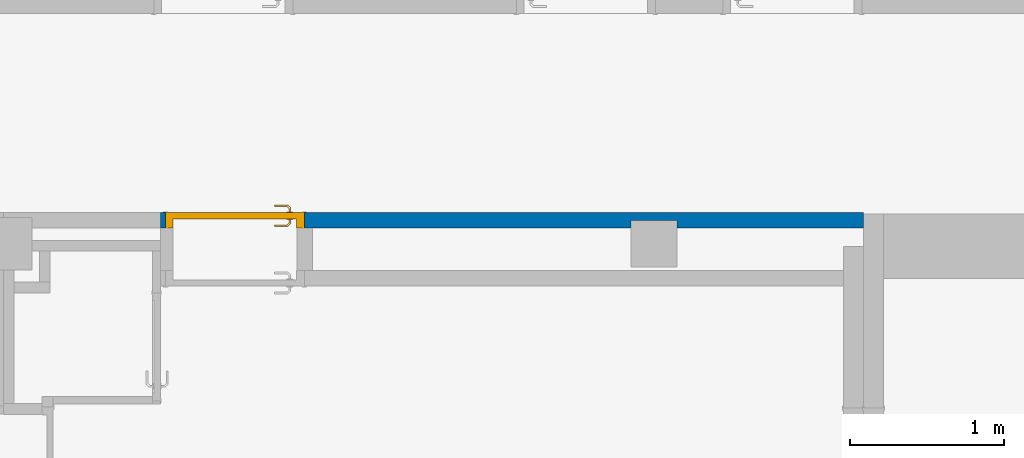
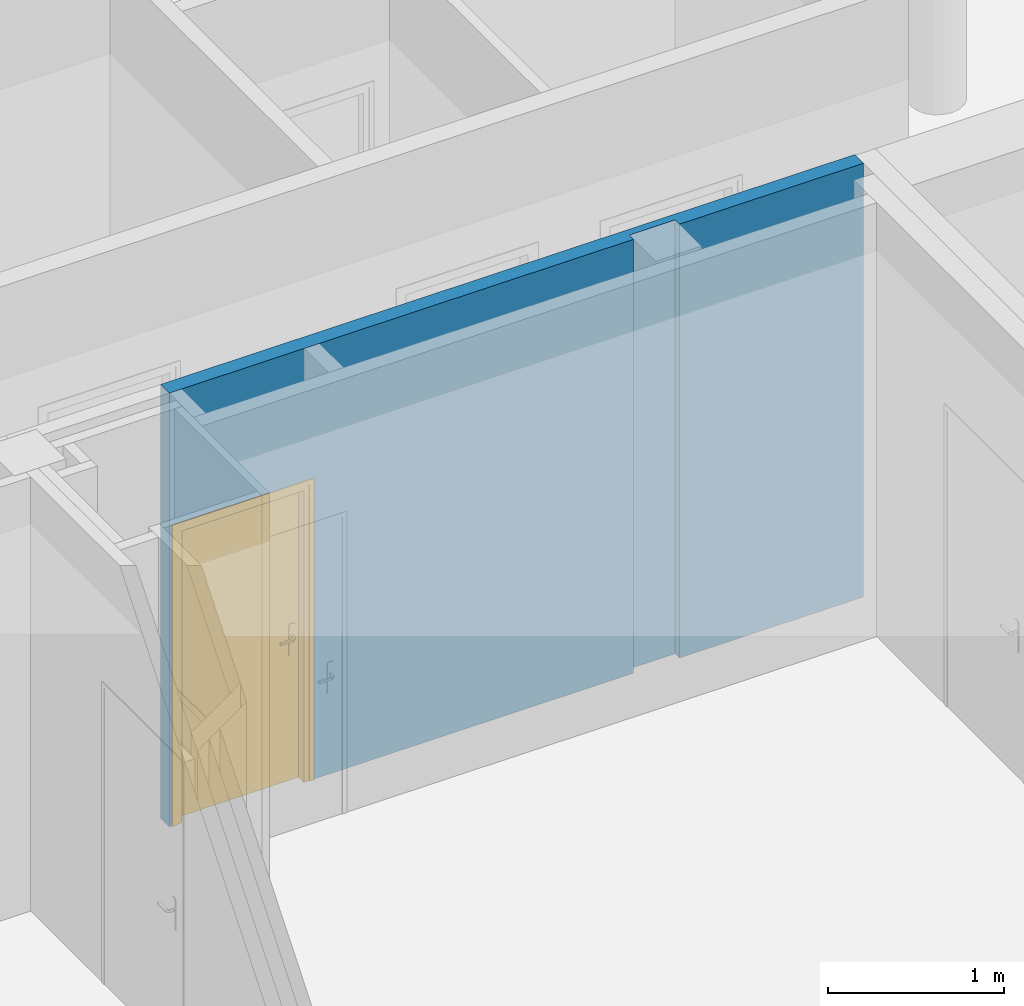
# One storey, part 67 of 97: 1 door, 1 wall, 1 opening.
"""IFC4 building model written with IfcOpenShell, lengths in metres."""

from ifc_helpers import new_model, entity, si_unit, converted_unit, derived_unit, direction, frame, origin, place, context, subcontext, project, spatial, indexed_curve, outline, extrude, polygons, source, transform, mapped, material, material_list, layer, layer_set, constituent, constituent_set, type_object, type_shapes, element, fill, save


model = new_model("IFC4")

# Units and contexts
model_context = context("Model", 3, precision=1e-05, world=origin(), true_north=direction((6.12303176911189e-17, 1.0)))
body_context = subcontext(model_context, "Body", "Model", "MODEL_VIEW")
ifc_project = project(units=[si_unit("LENGTHUNIT", "METRE"), si_unit("AREAUNIT", "SQUARE_METRE"), si_unit("VOLUMEUNIT", "CUBIC_METRE"), converted_unit("PLANEANGLEUNIT", "DEGREE", entity("IfcRatioMeasure", 0.0174532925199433), si_unit("PLANEANGLEUNIT", "RADIAN"), dimensions=[0, 0, 0, 0, 0, 0, 0]), si_unit("MASSUNIT", "GRAM", prefix="KILO"), derived_unit("MASSDENSITYUNIT", [(si_unit("MASSUNIT", "GRAM", prefix="KILO"), 1), (si_unit("LENGTHUNIT", "METRE"), -3)]), derived_unit("MOMENTOFINERTIAUNIT", [(si_unit("LENGTHUNIT", "METRE"), 4)]), si_unit("TIMEUNIT", "SECOND"), si_unit("FREQUENCYUNIT", "HERTZ"), si_unit("THERMODYNAMICTEMPERATUREUNIT", "DEGREE_CELSIUS"), derived_unit("THERMALTRANSMITTANCEUNIT", [(si_unit("MASSUNIT", "GRAM", prefix="KILO"), 1), (si_unit("THERMODYNAMICTEMPERATUREUNIT", "KELVIN"), -1), (si_unit("TIMEUNIT", "SECOND"), -3)]), derived_unit("VOLUMETRICFLOWRATEUNIT", [(si_unit("LENGTHUNIT", "METRE"), 3), (si_unit("TIMEUNIT", "SECOND"), -1)]), si_unit("ELECTRICCURRENTUNIT", "AMPERE"), si_unit("ELECTRICVOLTAGEUNIT", "VOLT"), si_unit("POWERUNIT", "WATT"), si_unit("FORCEUNIT", "NEWTON", prefix="KILO"), si_unit("ILLUMINANCEUNIT", "LUX"), si_unit("LUMINOUSFLUXUNIT", "LUMEN"), si_unit("LUMINOUSINTENSITYUNIT", "CANDELA"), derived_unit("USERDEFINED", [(si_unit("MASSUNIT", "GRAM", prefix="KILO"), -1), (si_unit("LENGTHUNIT", "METRE"), -2), (si_unit("TIMEUNIT", "SECOND"), 3), (si_unit("LUMINOUSFLUXUNIT", "LUMEN"), 1)]), derived_unit("LINEARVELOCITYUNIT", [(si_unit("LENGTHUNIT", "METRE"), 1), (si_unit("TIMEUNIT", "SECOND"), -1)]), si_unit("PRESSUREUNIT", "PASCAL"), derived_unit("USERDEFINED", [(si_unit("LENGTHUNIT", "METRE"), -2), (si_unit("MASSUNIT", "GRAM", prefix="KILO"), 1), (si_unit("TIMEUNIT", "SECOND"), -2)]), derived_unit("LINEARFORCEUNIT", [(si_unit("MASSUNIT", "GRAM", prefix="KILO"), 1), (si_unit("LENGTHUNIT", "METRE"), 1), (si_unit("TIMEUNIT", "SECOND"), -2), (si_unit("LENGTHUNIT", "METRE"), -1)]), derived_unit("PLANARFORCEUNIT", [(si_unit("MASSUNIT", "GRAM", prefix="KILO"), 1), (si_unit("LENGTHUNIT", "METRE"), 1), (si_unit("TIMEUNIT", "SECOND"), -2), (si_unit("LENGTHUNIT", "METRE"), -2)])], contexts=[model_context])

# Site, building, storey
site_placement = place(None, origin())
site = spatial("IfcSite", under=ifc_project, at=site_placement, Name="Default", CompositionType="ELEMENT")
building_placement = place(site_placement, origin())
building = spatial("IfcBuilding", under=site, at=building_placement, Name="HOTEL CONSULAIRE BOULOGNE SUR MER", CompositionType="ELEMENT")
storey_placement = place(building_placement, frame((0.0, 0.0, 3.62152697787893)))
storey = spatial("IfcBuildingStorey", under=building, at=storey_placement, Name="Niveau 1", CompositionType="ELEMENT", Elevation=3.62152697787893)

# Wall, opening, door
ifc_material_1 = material(Name="Mur par défaut", Category="Divers")
ifc_layer = layer(ifc_material_1, 0.1, Name="Mur par défaut", Category="Divers")
ifc_layer_set = layer_set([ifc_layer], Name="Mur de base:Générique - Int. 100 mm")
wall_type = type_object("IfcWallType", Name="Mur de base:Générique - Int. 100 mm", PredefinedType="NOTDEFINED", material=ifc_layer_set)
wall_placement = place(storey_placement, frame((4.3285800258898, -23.864691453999, 0.0), z_axis=(0.0, 0.0, 1.0), x_axis=(-1.0, 0.0, 0.0)))
wall = element("IfcWall", 1, at=wall_placement, inside=storey, type_object=wall_type, material=ifc_layer_set, Name="Mur de base:Générique - Int. 100 mm", ObjectType="Mur de base:Générique - Int. 100 mm", PredefinedType="NOTDEFINED", context=body_context, shape_type="Tessellation", body=[
    polygons([(4.55401369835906, -0.0499999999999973, 0.0), (4.522, -0.0499999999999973, 0.0), (4.522, 0.0500000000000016, 0.0), (4.55401369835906, 0.0499999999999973, 0.0), (-9.21861987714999e-17, 0.0500000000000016, 0.0), (-9.21861987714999e-17, 0.0500000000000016, 3.01021454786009), (1.20740325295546, 0.0500000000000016, 3.01021454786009), (1.20740325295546, 0.0500000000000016, 0.0), (4.55401369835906, -0.0500000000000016, 3.01021454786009), (2.47802385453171e-16, -0.0499999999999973, 3.01021454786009), (2.47802385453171e-16, -0.0499999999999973, 0.0), (3.622, -0.0500000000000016, 0.0), (3.622, -0.0500000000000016, 2.075), (4.522, -0.0500000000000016, 2.075), (4.522, 0.0499999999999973, 2.075), (3.622, 0.0499999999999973, 2.075), (3.622, 0.0499999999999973, 0.0), (3.57, 0.0499999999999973, 0.0), (1.50740325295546, 0.0500000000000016, 0.0), (1.50740325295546, 0.0500000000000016, 3.01021454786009), (3.57, 0.0499999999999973, 3.01021454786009), (3.67, 0.0499999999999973, 3.01021454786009), (4.47401369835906, 0.0499999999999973, 3.01021454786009), (4.55401369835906, 0.0499999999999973, 3.01021454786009), (1.50740325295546, 0.0012183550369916, 3.01021454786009), (1.20740325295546, 0.0012183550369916, 3.01021454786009), (2.20366383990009e-16, -0.0419303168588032, 3.01021454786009), (2.20366383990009e-16, -0.0419303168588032, 0.0), (1.20740325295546, 0.0012183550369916, 0.0), (1.50740325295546, 0.0012183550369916, 0.0)], [[[2, 3, 4, 1]], [[15, 14, 13, 16]], [[18, 17, 12, 11, 28, 5, 8, 29, 30, 19]], [[7, 8, 5, 6]], [[4, 3, 15, 16, 17, 18, 19, 20, 21, 22, 23, 24]], [[29, 26, 25, 30]], [[11, 12, 13, 14, 2, 1, 9, 10]], [[25, 26, 7, 6, 27, 10, 9, 24, 23, 22, 21, 20]], [[28, 11, 10, 27, 6, 5]], [[15, 3, 2, 14]], [[30, 25, 20, 19]], [[16, 13, 12, 17]], [[9, 1, 4, 24]], [[8, 7, 26, 29]]], closed=True),
])
opening_placement = place(wall_placement, frame((4.522, 0.0500000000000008, 0.0)))
opening = element("IfcOpeningElement", 2, at=opening_placement, cuts=wall, Name="Int. Simple:PP (0.83m x 2.04m):1", ObjectType="Opening", PredefinedType="OPENING", context=body_context, shape_type="SweptSolid", body=[
    extrude(outline(indexed_curve([(0.0, 0.0), (2.075, 0.0), (2.075, 0.9), (0.0, 0.9), (0.0, 0.0)], self_intersect=False)), frame((0.0, 0.0, 0.0), z_axis=(0.0, -1.0, 0.0), x_axis=(0.0, 0.0, 1.0)), (0.0, 0.0, 1.0), 0.1),
])
ifc_material_2 = material(Name="Finition Peinture - Blanc satiné", Category="Peinture")
ifc_constituent_1 = constituent(ifc_material_2, Name="Finition Peinture - Blanc satiné", Category="Matériaux")
ifc_material_3 = material(Name="Bois - Panneau de porte", Category="Bois")
ifc_constituent_2 = constituent(ifc_material_3, Name="Bois - Panneau de porte", Category="Matériaux")
ifc_material_4 = material(Name="Bois - Cadre de porte", Category="Bois")
ifc_constituent_3 = constituent(ifc_material_4, Name="Bois - Cadre de porte", Category="Matériaux")
ifc_constituent_set = constituent_set(constituents=[ifc_constituent_1, ifc_constituent_2, ifc_constituent_3], Name="MaterialConstituentSet")
ifc_material_list = material_list([ifc_material_3, ifc_material_4, ifc_material_2, ifc_material_4])
door_type = type_object("IfcDoorType", Name="Int. Simple:PP (0.83m x 2.04m)", OperationType="NOTDEFINED", PredefinedType="DOOR", material=ifc_material_list)
shared_shape = source(origin(), body_context, "Body", "Tessellation", [
    polygons([(0.0750000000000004, -0.00500000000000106, 0.870000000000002), (0.0846472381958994, -0.00500000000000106, 0.866003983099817), (0.0950000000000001, -0.00500000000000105, 0.86464101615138), (0.105352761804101, -0.00500000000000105, 0.866003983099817), (0.115, -0.00500000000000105, 0.870000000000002), (0.114999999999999, -0.00500000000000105, 1.08), (0.1053527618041, -0.00500000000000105, 1.08399601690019), (0.094999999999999, -0.00500000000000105, 1.08535898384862), (0.0846472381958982, -0.00500000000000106, 1.08399601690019), (0.0749999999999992, -0.00500000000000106, 1.08), (0.0749999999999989, -1.06594733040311e-15, 0.870000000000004), (0.0749999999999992, -1.06594733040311e-15, 1.08), (0.0846472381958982, -1.06594733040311e-15, 1.08399601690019), (0.094999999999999, -1.05748743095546e-15, 1.08535898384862), (0.1053527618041, -1.05748743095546e-15, 1.08399601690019), (0.114999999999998, -1.04902753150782e-15, 1.08), (0.115, -1.04902753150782e-15, 0.870000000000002), (0.105352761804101, -1.05748743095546e-15, 0.866003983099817), (0.0950000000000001, -1.05748743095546e-15, 0.86464101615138), (0.0846472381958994, -1.06594733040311e-15, 0.866003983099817)], [[[4, 5, 6, 7, 8, 9, 10, 1, 2, 3]], [[15, 16, 17, 18, 19, 20, 11, 12, 13, 14]], [[11, 20, 2, 1]], [[2, 20, 19, 3]], [[19, 18, 4, 3]], [[18, 17, 5, 4]], [[6, 5, 17, 16]], [[16, 15, 7, 6]], [[7, 15, 14, 8]], [[14, 13, 9, 8]], [[13, 12, 10, 9]], [[1, 10, 12, 11]]], closed=True),
    polygons([(0.114999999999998, 0.0399999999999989, 1.08), (0.105352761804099, 0.0399999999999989, 1.08399601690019), (0.0949999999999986, 0.0399999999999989, 1.08535898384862), (0.084647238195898, 0.0399999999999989, 1.08399601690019), (0.0749999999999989, 0.0399999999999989, 1.08), (0.0750000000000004, 0.0399999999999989, 0.870000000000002), (0.0846472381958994, 0.0399999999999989, 0.866003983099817), (0.0950000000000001, 0.0399999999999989, 0.86464101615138), (0.105352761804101, 0.0399999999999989, 0.866003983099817), (0.115, 0.0399999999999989, 0.870000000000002), (0.114999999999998, 0.0449999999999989, 1.08), (0.115, 0.0449999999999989, 0.870000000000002), (0.105352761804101, 0.0449999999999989, 0.866003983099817), (0.0950000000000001, 0.0449999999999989, 0.86464101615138), (0.0846472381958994, 0.0449999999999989, 0.866003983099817), (0.0749999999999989, 0.0449999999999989, 0.870000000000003), (0.0749999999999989, 0.0449999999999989, 1.08), (0.084647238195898, 0.0449999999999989, 1.08399601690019), (0.0949999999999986, 0.0449999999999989, 1.08535898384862), (0.105352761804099, 0.0449999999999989, 1.08399601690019)], [[[9, 10, 1, 2, 3, 4, 5, 6, 7, 8]], [[20, 11, 12, 13, 14, 15, 16, 17, 18, 19]], [[11, 20, 2, 1]], [[2, 20, 19, 3]], [[19, 18, 4, 3]], [[18, 17, 5, 4]], [[6, 5, 17, 16]], [[16, 15, 7, 6]], [[7, 15, 14, 8]], [[14, 13, 9, 8]], [[13, 12, 10, 9]], [[1, 10, 12, 11]]], closed=True),
    polygons([(0.0889999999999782, -0.00500000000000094, 1.007), (0.0929747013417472, -0.00500000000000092, 1.00778044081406), (0.0970252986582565, -0.0050000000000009, 1.00778044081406), (0.101000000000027, -0.00500000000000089, 1.00699999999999), (0.101000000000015, -0.00500000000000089, 0.993000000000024), (0.0970252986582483, -0.0050000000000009, 0.992219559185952), (0.0929747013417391, -0.00500000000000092, 0.99221955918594), (0.0889999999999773, -0.00500000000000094, 0.992999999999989), (0.0889999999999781, -0.0326509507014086, 1.007), (0.092974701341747, -0.0310045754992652, 1.00778044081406), (0.0970252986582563, -0.0293267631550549, 1.00778044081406), (0.101000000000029, -0.0276803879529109, 1.007), (0.101000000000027, -0.0276803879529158, 0.993000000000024), (0.0970252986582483, -0.0293267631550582, 0.992219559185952), (0.0929747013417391, -0.0310045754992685, 0.99221955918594), (0.0889999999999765, -0.0326509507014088, 0.992999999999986), (0.107377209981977, -0.0510281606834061, 1.007), (0.10902358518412, -0.0470534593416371, 1.00778044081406), (0.110701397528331, -0.0430028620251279, 1.00778044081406), (0.112347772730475, -0.0390281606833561, 1.007), (0.112347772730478, -0.0390281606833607, 0.993000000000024), (0.110701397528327, -0.0430028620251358, 0.992219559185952), (0.109023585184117, -0.0470534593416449, 0.99221955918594), (0.107377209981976, -0.0510281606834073, 0.992999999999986), (0.195018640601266, -0.0510281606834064, 1.00699999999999), (0.195018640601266, -0.051028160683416, 0.992999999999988), (0.195018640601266, -0.0470534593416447, 0.99221955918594), (0.195018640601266, -0.0430028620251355, 0.992219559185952), (0.195018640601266, -0.0390281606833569, 0.993000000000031), (0.195018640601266, -0.0390281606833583, 1.007), (0.195018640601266, -0.0430028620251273, 1.00778044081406), (0.195018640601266, -0.0470534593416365, 1.00778044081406), (0.147307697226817, -0.0510281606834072, 1.007), (0.152860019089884, -0.045028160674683, 1.0078786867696), (0.15368320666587, -0.039028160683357, 1.007), (0.147307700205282, -0.0510281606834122, 0.992999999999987), (0.152860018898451, -0.0450281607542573, 0.992121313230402), (0.153683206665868, -0.0390281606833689, 0.993000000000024)], [[[2, 3, 4, 5, 6, 7, 8, 1]], [[21, 20, 35, 30, 29, 38]], [[9, 10, 2, 1]], [[10, 18, 19, 11, 3, 2]], [[11, 12, 4, 3]], [[5, 4, 12, 13]], [[26, 27, 28, 29, 30, 31, 32, 25]], [[13, 14, 6, 5]], [[14, 22, 23, 15, 7, 6]], [[15, 16, 8, 7]], [[1, 8, 16, 9]], [[17, 18, 10, 9]], [[19, 20, 12, 11]], [[13, 12, 20, 21]], [[21, 22, 14, 13]], [[23, 24, 16, 15]], [[9, 16, 24, 17]], [[33, 32, 34]], [[25, 32, 33]], [[18, 17, 33]], [[34, 35, 19]], [[20, 19, 35]], [[35, 31, 30]], [[32, 31, 34]], [[31, 35, 34]], [[18, 33, 34]], [[18, 34, 19]], [[38, 28, 37]], [[36, 37, 27]], [[21, 38, 22]], [[38, 29, 28]], [[26, 36, 27]], [[24, 23, 36]], [[36, 23, 37]], [[23, 22, 37]], [[22, 38, 37]], [[27, 37, 28]], [[17, 24, 36, 26, 25, 33]]], closed=True),
    polygons([(0.10100000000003, 0.0449999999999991, 0.993000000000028), (0.101000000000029, 0.0449999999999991, 1.007), (0.0970252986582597, 0.0449999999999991, 1.00778044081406), (0.0929747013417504, 0.0449999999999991, 1.00778044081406), (0.0889999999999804, 0.044999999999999, 1.007), (0.0889999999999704, 0.044999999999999, 0.992999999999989), (0.0929747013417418, 0.0449999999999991, 0.99221955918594), (0.0970252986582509, 0.0449999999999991, 0.992219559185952), (0.10100000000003, 0.067485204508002, 0.993000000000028), (0.10100000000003, 0.0674852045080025, 1.007), (0.0970252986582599, 0.0691315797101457, 1.00778044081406), (0.0929747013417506, 0.070809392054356, 1.00778044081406), (0.0889999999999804, 0.0724557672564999, 1.007), (0.0889999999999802, 0.072455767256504, 0.992999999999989), (0.0929747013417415, 0.0708093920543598, 0.99221955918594), (0.0970252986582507, 0.0691315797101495, 0.992219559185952), (0.112485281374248, 0.0789704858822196, 0.993000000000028), (0.112485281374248, 0.0789704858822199, 1.007), (0.110838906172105, 0.0829451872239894, 1.00778044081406), (0.109161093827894, 0.0869957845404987, 1.00778044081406), (0.107514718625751, 0.0909704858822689, 1.007), (0.107514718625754, 0.090970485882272, 0.992999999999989), (0.109161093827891, 0.0869957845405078, 0.99221955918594), (0.110838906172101, 0.0829451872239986, 0.992219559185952), (0.195045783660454, 0.0789704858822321, 0.993000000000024), (0.195045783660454, 0.0829451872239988, 0.992219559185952), (0.195045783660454, 0.086995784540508, 0.99221955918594), (0.195045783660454, 0.0909704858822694, 0.992999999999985), (0.195045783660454, 0.0909704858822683, 1.007), (0.195045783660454, 0.0869957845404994, 1.00778044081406), (0.195045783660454, 0.0829451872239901, 1.00778044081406), (0.195045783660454, 0.0789704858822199, 1.007), (0.147445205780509, 0.0909704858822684, 1.007), (0.152942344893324, 0.0849704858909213, 1.0078786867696), (0.153765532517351, 0.0789704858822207, 1.007), (0.147445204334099, 0.0909704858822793, 0.992999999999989), (0.152942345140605, 0.0849704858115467, 0.992121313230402), (0.153765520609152, 0.0789704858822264, 0.993000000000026)], [[[4, 5, 6, 7, 8, 1, 2, 3]], [[18, 17, 38, 25, 32, 35]], [[2, 1, 9, 10]], [[25, 26, 27, 28, 29, 30, 31, 32]], [[10, 11, 3, 2]], [[11, 19, 20, 12, 4, 3]], [[12, 13, 5, 4]], [[6, 5, 13, 14]], [[14, 15, 7, 6]], [[15, 23, 24, 16, 8, 7]], [[16, 9, 1, 8]], [[10, 9, 17, 18]], [[18, 19, 11, 10]], [[20, 21, 13, 12]], [[14, 13, 21, 22]], [[22, 23, 15, 14]], [[24, 17, 9, 16]], [[35, 31, 34]], [[33, 34, 30]], [[18, 35, 19]], [[35, 32, 31]], [[29, 33, 30]], [[21, 20, 33]], [[33, 20, 34]], [[20, 19, 34]], [[19, 35, 34]], [[30, 34, 31]], [[21, 33, 29, 28, 36, 22]], [[36, 27, 37]], [[28, 27, 36]], [[23, 22, 36]], [[37, 38, 24]], [[17, 24, 38]], [[38, 26, 25]], [[27, 26, 37]], [[26, 38, 37]], [[23, 36, 37]], [[23, 37, 24]]], closed=True),
    polygons([(0.034999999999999, 0.04, 2.04), (0.865, 0.04, 2.04), (0.864999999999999, 0.04, 0.0), (0.034999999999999, 0.04, 0.0), (0.034999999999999, 3.38395977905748e-17, 2.04), (0.034999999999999, 3.38395977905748e-17, 0.0), (0.864999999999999, 3.38395977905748e-17, 0.0), (0.865, 3.38395977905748e-17, 2.04)], [[[4, 1, 2, 3]], [[7, 8, 5, 6]], [[2, 1, 5, 8]], [[3, 2, 8, 7]], [[4, 3, 7, 6]], [[1, 4, 6, 5]]], closed=True),
    polygons([(-1.54308565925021e-14, 0.0, 0.0), (-1.54308565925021e-14, 0.100000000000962, 0.0), (0.0499999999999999, 0.100000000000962, 0.0), (0.0499999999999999, 0.040000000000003, 0.0), (0.0349999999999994, 0.040000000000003, 0.0), (0.0349999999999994, 0.0, 0.0), (-1.53631773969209e-14, 0.0, 2.07500000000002), (-1.53631773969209e-14, 0.100000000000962, 2.07500000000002), (0.900000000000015, 0.100000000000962, 2.07500000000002), (0.900000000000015, 0.100000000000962, 9.23443718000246e-25), (0.85, 0.100000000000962, 6.02669015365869e-24), (0.85, 0.100000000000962, 2.025), (0.05, 0.100000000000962, 2.025), (0.05, 0.040000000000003, 2.025), (0.85, 0.040000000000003, 2.025), (0.85, 0.040000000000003, 1.99209609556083e-25), (0.865, 0.040000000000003, 1.51399294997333e-24), (0.865000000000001, 0.040000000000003, 2.04), (0.0349999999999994, 0.040000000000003, 2.04), (0.0349999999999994, 0.0, 2.04), (0.865, 0.0, 2.04), (0.865, 0.0, 3.40121094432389e-24), (0.900000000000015, 0.0, 1.81925185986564e-24), (0.900000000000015, 0.0, 2.07500000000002)], [[[5, 6, 1, 2, 3, 4]], [[11, 10, 23, 22, 17, 16]], [[14, 13, 12, 15]], [[20, 19, 18, 21]], [[2, 1, 7, 8]], [[15, 12, 11, 16]], [[21, 18, 17, 22]], [[3, 2, 8, 9, 10, 11, 12, 13]], [[4, 3, 13, 14]], [[6, 5, 19, 20]], [[9, 24, 23, 10]], [[16, 17, 18, 19, 5, 4, 14, 15]], [[22, 23, 24, 7, 1, 6, 20, 21]], [[8, 7, 24, 9]]], closed=True),
    polygons([(0.0149999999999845, 0.100000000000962, 1.35358391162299e-16), (-0.0150000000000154, 0.100000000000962, 1.35358391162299e-16), (-0.0150000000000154, 0.105000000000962, 1.35358391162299e-16), (0.0149999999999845, 0.105000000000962, 1.35358391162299e-16), (0.0149999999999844, 0.100000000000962, 2.06000000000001), (0.884999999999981, 0.100000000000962, 2.06000000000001), (0.88499999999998, 0.100000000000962, 5.09144897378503e-24), (0.91499999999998, 0.100000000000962, -5.44393448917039e-24), (0.91499999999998, 0.100000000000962, 2.09000000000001), (-0.0150000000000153, 0.100000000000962, 2.09000000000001), (-0.0150000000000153, 0.105000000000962, 2.09000000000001), (0.91499999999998, 0.105000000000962, 2.09000000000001), (0.91499999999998, 0.105000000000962, 5.03766794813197e-24), (0.88499999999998, 0.105000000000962, -1.89153776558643e-24), (0.88499999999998, 0.105000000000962, 2.06000000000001), (0.0149999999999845, 0.105000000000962, 2.06000000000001)], [[[1, 2, 3, 4]], [[14, 13, 8, 7]], [[5, 16, 15, 6]], [[7, 8, 9, 10, 2, 1, 5, 6]], [[3, 2, 10, 11]], [[6, 15, 14, 7]], [[4, 3, 11, 12, 13, 14, 15, 16]], [[1, 4, 16, 5]], [[12, 9, 8, 13]], [[11, 10, 9, 12]]], closed=True),
    polygons([(0.0149999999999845, -0.005, 1.35358391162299e-16), (-0.0150000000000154, -0.005, 1.35358391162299e-16), (-0.0150000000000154, 0.0, 1.35358391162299e-16), (0.0149999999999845, 0.0, 1.35358391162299e-16), (0.88499999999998, -0.005, -1.35358391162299e-16), (0.88499999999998, 0.0, -1.35358391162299e-16), (0.91499999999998, 0.0, -1.35358391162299e-16), (0.91499999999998, -0.005, -1.35358391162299e-16), (0.0149999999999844, -0.005, 2.06000000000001), (0.884999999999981, -0.005, 2.06000000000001), (0.91499999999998, -0.005, 2.09000000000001), (-0.0150000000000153, -0.005, 2.09000000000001), (-0.0150000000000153, 0.0, 2.09000000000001), (0.91499999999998, 0.0, 2.09000000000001), (0.88499999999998, 0.0, 2.06000000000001), (0.0149999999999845, 0.0, 2.06000000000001)], [[[2, 3, 4, 1]], [[6, 7, 8, 5]], [[9, 16, 15, 10]], [[5, 8, 11, 12, 2, 1, 9, 10]], [[3, 2, 12, 13]], [[10, 15, 6, 5]], [[4, 3, 13, 14, 7, 6, 15, 16]], [[1, 4, 16, 9]], [[14, 11, 8, 7]], [[13, 12, 11, 14]]], closed=True),
])
type_shapes(door_type, [shared_shape])
door_placement = place(opening_placement, frame((-0.9, -0.100000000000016, 0.0)))
door = element("IfcDoor", 3, at=door_placement, inside=storey, type_object=door_type, material=ifc_constituent_set, Name="Int. Simple:PP (0.83m x 2.04m)", ObjectType="Int. Simple:PP (0.83m x 2.04m)", OperationType="NOTDEFINED", OverallHeight=2.075, OverallWidth=0.9, PredefinedType="DOOR", context=body_context, shape_type="MappedRepresentation", body=[
    mapped(shared_shape, transform((0.0, 0.0, 0.0), scale=1.0)),
])
fill(opening, door)

save(model, "model.ifc")
